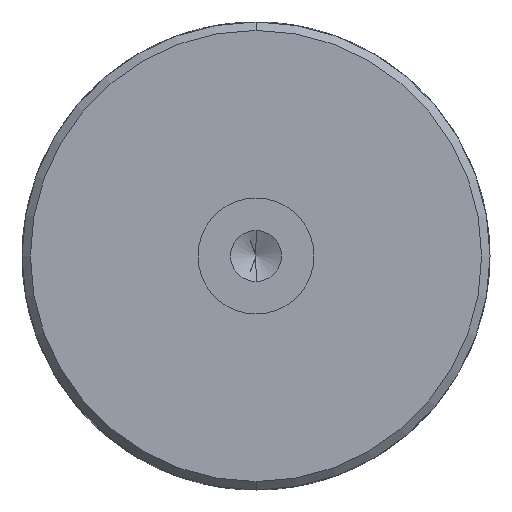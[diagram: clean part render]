
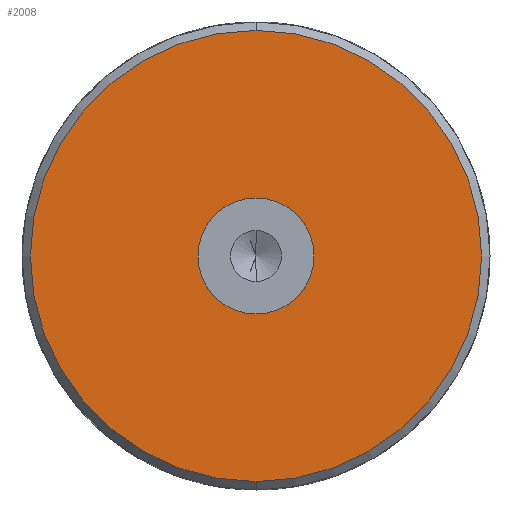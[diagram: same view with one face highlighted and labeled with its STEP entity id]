
A CAD part, front view. The second image highlights one B-rep face of the part: STEP entity #2008.
In plain terms, the highlighted planar face has unit normal (0, -1, 0).
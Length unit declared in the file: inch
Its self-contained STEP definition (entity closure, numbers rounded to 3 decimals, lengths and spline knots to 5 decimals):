
#146 = DIRECTION ( 'NONE',  ( 0., 0., 1. ) ) ;
#147 = DIRECTION ( 'NONE',  ( 0., -1., 0. ) ) ;
#148 = CARTESIAN_POINT ( 'NONE',  ( 0., 0., 0. ) ) ;
#149 = AXIS2_PLACEMENT_3D ( 'NONE', #148, #147, #146 ) ;
#150 = CIRCLE ( 'NONE', #149, 1.663 ) ;
#280 = FACE_OUTER_BOUND ( 'NONE', #1838, .T. ) ;
#281 = FACE_BOUND ( 'NONE', #2010, .T. ) ;
#284 = CARTESIAN_POINT ( 'NONE',  ( 0., 0., 0. ) ) ;
#285 = PLANE ( 'NONE',  #313 ) ;
#311 = DIRECTION ( 'NONE',  ( 0., 0., 1. ) ) ;
#312 = DIRECTION ( 'NONE',  ( 0., 1., 0. ) ) ;
#313 = AXIS2_PLACEMENT_3D ( 'NONE', #284, #312, #311 ) ;
#1715 = CARTESIAN_POINT ( 'NONE',  ( 0., 0., -0.4275 ) ) ;
#1716 = DIRECTION ( 'NONE',  ( 0., 0., -1. ) ) ;
#1717 = DIRECTION ( 'NONE',  ( 0., -1., 0. ) ) ;
#1718 = CARTESIAN_POINT ( 'NONE',  ( 0., 0., 0. ) ) ;
#1719 = AXIS2_PLACEMENT_3D ( 'NONE', #1718, #1717, #1716 ) ;
#1720 = CIRCLE ( 'NONE', #1719, 0.4275 ) ;
#1721 = CARTESIAN_POINT ( 'NONE',  ( 0., 0., 0.4275 ) ) ;
#1831 = ORIENTED_EDGE ( 'NONE', *, *, #1834, .F. ) ;
#1834 = EDGE_CURVE ( 'NONE', #3500, #3497, #4165, .T. ) ;
#1836 = ORIENTED_EDGE ( 'NONE', *, *, #3499, .F. ) ;
#1838 = EDGE_LOOP ( 'NONE', ( #2056, #2059 ) ) ;
#2008 = ADVANCED_FACE ( 'NONE', ( #281, #280 ), #285, .F. ) ;
#2010 = EDGE_LOOP ( 'NONE', ( #1831, #1836 ) ) ;
#2056 = ORIENTED_EDGE ( 'NONE', *, *, #2058, .T. ) ;
#2058 = EDGE_CURVE ( 'NONE', #3815, #3814, #150, .T. ) ;
#2059 = ORIENTED_EDGE ( 'NONE', *, *, #3813, .T. ) ;
#2650 = DIRECTION ( 'NONE',  ( 0., 0., 1. ) ) ;
#2652 = DIRECTION ( 'NONE',  ( 0., -1., 0. ) ) ;
#2654 = CARTESIAN_POINT ( 'NONE',  ( 0., 0., 0. ) ) ;
#2655 = AXIS2_PLACEMENT_3D ( 'NONE', #2654, #2652, #2650 ) ;
#2657 = CIRCLE ( 'NONE', #2655, 1.663 ) ;
#2853 = CARTESIAN_POINT ( 'NONE',  ( 0., 0., 1.663 ) ) ;
#2855 = CARTESIAN_POINT ( 'NONE',  ( 0., 0., -1.663 ) ) ;
#3497 = VERTEX_POINT ( 'NONE', #1721 ) ;
#3499 = EDGE_CURVE ( 'NONE', #3497, #3500, #1720, .T. ) ;
#3500 = VERTEX_POINT ( 'NONE', #1715 ) ;
#3813 = EDGE_CURVE ( 'NONE', #3814, #3815, #2657, .T. ) ;
#3814 = VERTEX_POINT ( 'NONE', #2855 ) ;
#3815 = VERTEX_POINT ( 'NONE', #2853 ) ;
#4160 = DIRECTION ( 'NONE',  ( 0., -1., 0. ) ) ;
#4164 = DIRECTION ( 'NONE',  ( 0., 0., -1. ) ) ;
#4165 = CIRCLE ( 'NONE', #4175, 0.4275 ) ;
#4175 = AXIS2_PLACEMENT_3D ( 'NONE', #4176, #4160, #4164 ) ;
#4176 = CARTESIAN_POINT ( 'NONE',  ( 0., 0., 0. ) ) ;
